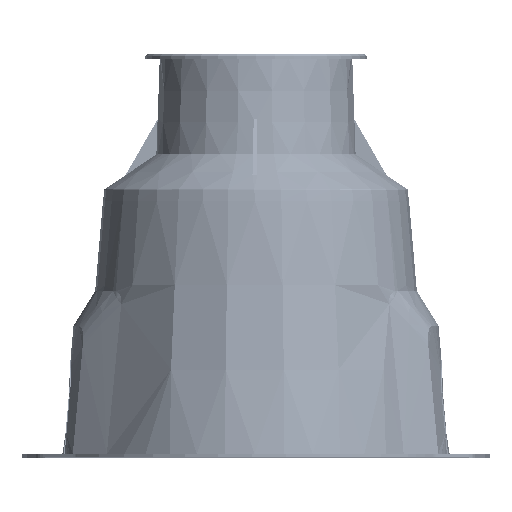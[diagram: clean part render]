
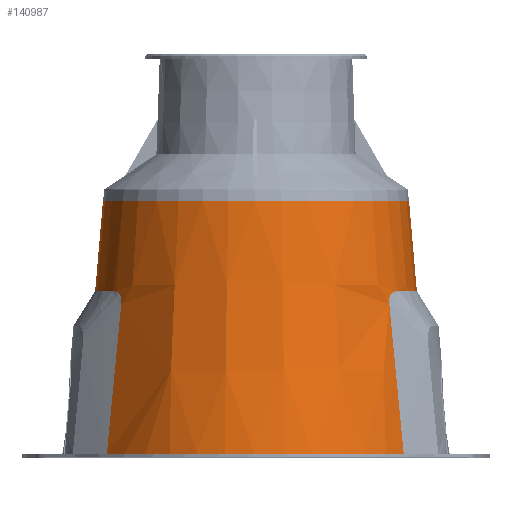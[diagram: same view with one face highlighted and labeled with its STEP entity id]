
A CAD part, top view. The second image highlights one B-rep face of the part: STEP entity #140987.
In plain terms, the highlighted conical face has half-angle 4.938 degrees and reference radius 70.313 mm.
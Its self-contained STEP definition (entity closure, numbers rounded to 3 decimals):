
#133597=CARTESIAN_POINT('',(-26.9,0.,-9.6));
#133598=DIRECTION('',(-1.,0.,0.));
#133599=DIRECTION('',(0.,1.,0.));
#133600=AXIS2_PLACEMENT_3D('',#133597,#133598,#133599);
#133685=DIRECTION('',(-0.995,0.096,-0.01));
#133686=VECTOR('',#133685,64.592);
#133687=CARTESIAN_POINT('',(-71.111,57.451,
-48.613));
#133688=LINE('',#133687,#133686);
#133689=DIRECTION('',(0.995,0.096,0.01));
#133690=VECTOR('',#133689,64.592);
#133691=CARTESIAN_POINT('',(-135.4,-63.659,
-49.255));
#133692=LINE('',#133691,#133690);
#133693=DIRECTION('',(0.996,0.086,0.));
#133694=VECTOR('',#133693,38.699);
#133695=CARTESIAN_POINT('',(-65.456,-68.957,
-9.6));
#133696=LINE('',#133695,#133694);
#133697=CARTESIAN_POINT('',(-65.456,0.,-9.6));
#133698=DIRECTION('',(-1.,0.,0.));
#133699=DIRECTION('',(0.,1.,0.));
#133700=AXIS2_PLACEMENT_3D('',#133697,#133698,#133699);
#133702=CARTESIAN_POINT('',(-65.456,61.041,
-41.679));
#133703=CARTESIAN_POINT('',(-65.456,60.812,
-42.115));
#133704=CARTESIAN_POINT('',(-65.494,60.373,
-42.935));
#133705=CARTESIAN_POINT('',(-65.651,59.781,
-44.01));
#133706=CARTESIAN_POINT('',(-65.893,59.258,
-44.943));
#133707=CARTESIAN_POINT('',(-66.206,58.806,
-45.74));
#133708=CARTESIAN_POINT('',(-66.574,58.428,
-46.407));
#133709=CARTESIAN_POINT('',(-66.981,58.122,
-46.952));
#133710=CARTESIAN_POINT('',(-67.417,57.881,
-47.394));
#133711=CARTESIAN_POINT('',(-67.885,57.692,
-47.754));
#133712=CARTESIAN_POINT('',(-68.391,57.549,
-48.048));
#133713=CARTESIAN_POINT('',(-68.949,57.45,
-48.282));
#133714=CARTESIAN_POINT('',(-69.576,57.395,
-48.461));
#133715=CARTESIAN_POINT('',(-70.283,57.389,
-48.578));
#133716=CARTESIAN_POINT('',(-70.824,57.423,
-48.61));
#133717=CARTESIAN_POINT('',(-71.111,57.451,
-48.613));
#133767=DIRECTION('',(0.996,-0.086,0.));
#133768=VECTOR('',#133767,38.699);
#133769=CARTESIAN_POINT('',(-65.456,68.957,-9.6));
#133770=LINE('',#133769,#133768);
#134063=CARTESIAN_POINT('',(-135.4,0.,-9.6));
#134064=DIRECTION('',(1.,0.,0.));
#134065=DIRECTION('',(0.,-0.849,-0.529));
#134066=AXIS2_PLACEMENT_3D('',#134063,#134064,#134065);
#134298=CARTESIAN_POINT('',(-65.456,-61.041,
-41.679));
#134299=CARTESIAN_POINT('',(-65.456,-60.812,
-42.115));
#134300=CARTESIAN_POINT('',(-65.494,-60.373,
-42.935));
#134301=CARTESIAN_POINT('',(-65.651,-59.781,
-44.01));
#134302=CARTESIAN_POINT('',(-65.893,-59.258,
-44.943));
#134303=CARTESIAN_POINT('',(-66.206,-58.806,
-45.74));
#134304=CARTESIAN_POINT('',(-66.574,-58.428,
-46.407));
#134305=CARTESIAN_POINT('',(-66.981,-58.122,
-46.952));
#134306=CARTESIAN_POINT('',(-67.417,-57.881,
-47.394));
#134307=CARTESIAN_POINT('',(-67.885,-57.692,
-47.754));
#134308=CARTESIAN_POINT('',(-68.391,-57.549,
-48.048));
#134309=CARTESIAN_POINT('',(-68.949,-57.45,
-48.282));
#134310=CARTESIAN_POINT('',(-69.576,-57.395,
-48.461));
#134311=CARTESIAN_POINT('',(-70.283,-57.389,
-48.578));
#134312=CARTESIAN_POINT('',(-70.824,-57.423,
-48.61));
#134313=CARTESIAN_POINT('',(-71.11,-57.451,
-48.613));
#134350=CARTESIAN_POINT('',(-65.456,0.,-9.6));
#134351=DIRECTION('',(1.,0.,0.));
#134352=DIRECTION('',(0.,-1.,0.));
#134353=AXIS2_PLACEMENT_3D('',#134350,#134351,#134352);
#139605=CARTESIAN_POINT('',(-26.9,65.626,-9.6));
#139606=CARTESIAN_POINT('',(-26.9,-65.626,-9.6));
#139607=VERTEX_POINT('',#139605);
#139608=VERTEX_POINT('',#139606);
#139645=CARTESIAN_POINT('',(-71.111,57.451,
-48.613));
#139646=CARTESIAN_POINT('',(-135.4,63.659,
-49.255));
#139647=VERTEX_POINT('',#139645);
#139648=VERTEX_POINT('',#139646);
#139649=CARTESIAN_POINT('',(-135.4,-63.659,-49.254));
#139650=VERTEX_POINT('',#139649);
#139651=CARTESIAN_POINT('',(-71.11,-57.451,
-48.613));
#139652=VERTEX_POINT('',#139651);
#139653=VERTEX_POINT('',#134298);
#139654=CARTESIAN_POINT('',(-65.456,-68.957,
-9.6));
#139655=VERTEX_POINT('',#139654);
#139656=CARTESIAN_POINT('',(-65.456,68.957,-9.6));
#139657=VERTEX_POINT('',#139656);
#139658=CARTESIAN_POINT('',(-65.456,61.041,
-41.679));
#139659=VERTEX_POINT('',#139658);
#140961=CARTESIAN_POINT('',(-81.15,0.,-9.6));
#140962=DIRECTION('',(-1.,0.,0.));
#140963=DIRECTION('',(0.,1.,0.));
#140964=AXIS2_PLACEMENT_3D('',#140961,#140962,#140963);
#140965=CONICAL_SURFACE('',#140964,70.313,4.938);
#140967=ORIENTED_EDGE('',*,*,#140966,.T.);
#140969=ORIENTED_EDGE('',*,*,#140968,.F.);
#140971=ORIENTED_EDGE('',*,*,#140970,.T.);
#140973=ORIENTED_EDGE('',*,*,#140972,.F.);
#140975=ORIENTED_EDGE('',*,*,#140974,.F.);
#140977=ORIENTED_EDGE('',*,*,#140976,.T.);
#140978=ORIENTED_EDGE('',*,*,#140900,.F.);
#140980=ORIENTED_EDGE('',*,*,#140979,.F.);
#140982=ORIENTED_EDGE('',*,*,#140981,.T.);
#140984=ORIENTED_EDGE('',*,*,#140983,.T.);
#140985=EDGE_LOOP('',(#140967,#140969,#140971,#140973,#140975,#140977,#140978,
#140980,#140982,#140984));
#140986=FACE_OUTER_BOUND('',#140985,.F.);
#140987=ADVANCED_FACE('',(#140986),#140965,.T.);
#133601=CIRCLE('',#133600,65.626);
#133701=CIRCLE('',#133700,68.957);
#133718=B_SPLINE_CURVE_WITH_KNOTS('',3,(#133702,#133703,#133704,#133705,#133706,
#133707,#133708,#133709,#133710,#133711,#133712,#133713,#133714,#133715,#133716,
#133717),.UNSPECIFIED.,.F.,.F.,(4,1,1,1,1,1,1,1,1,1,1,1,1,4),(0.,
0.077,0.154,0.231,0.308,
0.385,0.462,0.538,0.615,
0.692,0.769,0.846,0.923,1.),
.UNSPECIFIED.);
#134067=CIRCLE('',#134066,75.);
#134314=B_SPLINE_CURVE_WITH_KNOTS('',3,(#134298,#134299,#134300,#134301,#134302,
#134303,#134304,#134305,#134306,#134307,#134308,#134309,#134310,#134311,#134312,
#134313),.UNSPECIFIED.,.F.,.F.,(4,1,1,1,1,1,1,1,1,1,1,1,1,4),(0.,
0.077,0.154,0.231,0.308,
0.385,0.462,0.538,0.615,
0.692,0.769,0.846,0.923,1.),
.UNSPECIFIED.);
#134354=CIRCLE('',#134353,68.957);
#140900=EDGE_CURVE('',#139607,#139608,#133601,.T.);
#140966=EDGE_CURVE('',#139647,#139648,#133688,.T.);
#140968=EDGE_CURVE('',#139650,#139648,#134067,.T.);
#140970=EDGE_CURVE('',#139650,#139652,#133692,.T.);
#140972=EDGE_CURVE('',#139653,#139652,#134314,.T.);
#140974=EDGE_CURVE('',#139655,#139653,#134354,.T.);
#140976=EDGE_CURVE('',#139655,#139608,#133696,.T.);
#140979=EDGE_CURVE('',#139657,#139607,#133770,.T.);
#140981=EDGE_CURVE('',#139657,#139659,#133701,.T.);
#140983=EDGE_CURVE('',#139659,#139647,#133718,.T.);
